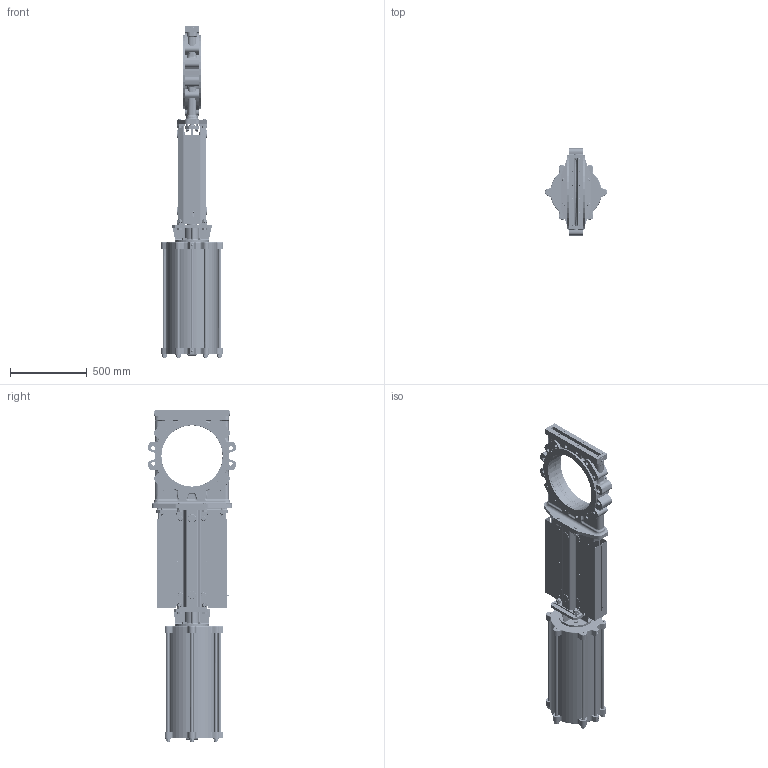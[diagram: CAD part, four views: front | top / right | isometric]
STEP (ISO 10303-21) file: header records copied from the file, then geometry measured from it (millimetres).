
FILE_DESCRIPTION(/* description */ (''),/* implementation_level */ '2;1');
FILE_NAME(/* name */ 'F:\3D-block färdiga för export\SLV-SLF\DN 400\SLV DN 400-PN10-FRSC320-500_.stp',/* time_stamp */ '2021-06-28T10:41:42+02:00',/* author */ ('MATZET'),/* organization */ (''),/* preprocessor_version */ 'ST-DEVELOPER v18',/* originating_system */ 'Autodesk Inventor 2020',/* authorisation */ '');
FILE_SCHEMA (('AUTOMOTIVE_DESIGN { 1 0 10303 214 3 1 1 }'));
Products named in the file (1): SLV DN 400-PN10-FRSC320-500_
Bounding box: 406 x 575.6 x 2168.5 mm (x, y, z)
Volume: 39745456.1 mm3; surface area: 7214214.7 mm2
Topology: 1 solids, 1 shells, 3496 faces, 8877 edges, 5654 vertices
Faces by surface type: plane 1352, cylinder 997, bspline 413, torus 321, cone 301, sphere 112
Full cylindrical faces by diameter (mm): 2.5 x8, 3.5 x4, 4 x24, 4.917 x7, 5 x8, 6 x13, 6.647 x4, 7 x12, 7.5 x16, 8 x12, 8.376 x4, 8.88 x1, 9.5 x2, 10 x12, 10.106 x2, 11 x12, 12 x18, 13 x8, 14 x7, 15 x9, 16 x6, 18 x1, 18.2 x4, 18.5 x2, 18.631 x2, 19 x8, 20 x20, 20.5 x2, 20.752 x24, 21 x10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
Entity records: 160944 total; most frequent: CARTESIAN_POINT 74892, DIRECTION 17586, ORIENTED_EDGE 17576, EDGE_CURVE 8788, AXIS2_PLACEMENT_3D 7206, VERTEX_POINT 5648, EDGE_LOOP 4034, CIRCLE 3978
